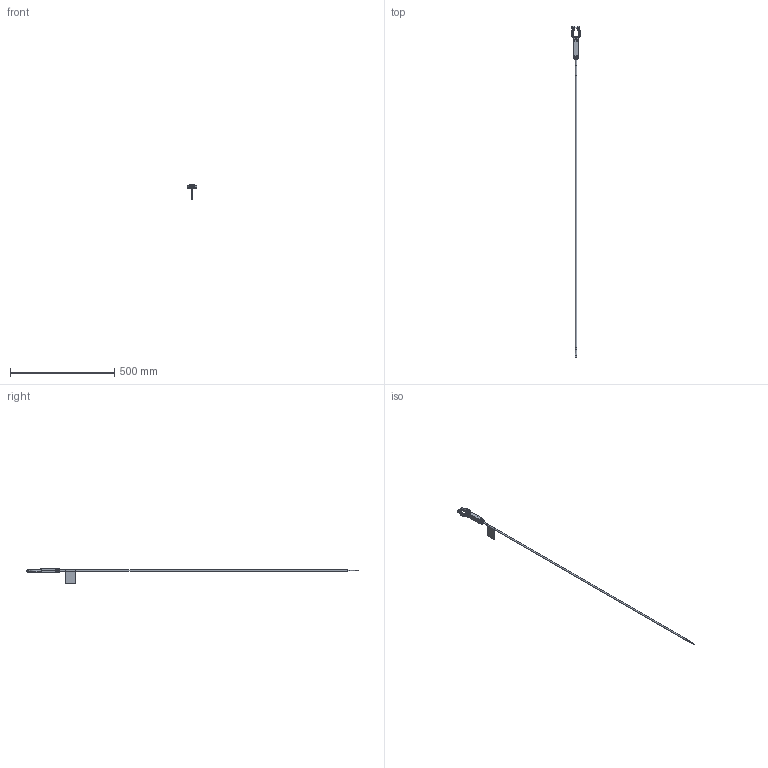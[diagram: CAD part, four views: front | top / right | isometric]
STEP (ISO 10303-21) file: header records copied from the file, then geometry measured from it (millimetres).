
FILE_DESCRIPTION(/* description */ (''),/* implementation_level */ '2;1');
FILE_NAME(/* name */ '7479900030_D.stp',/* time_stamp */ '2018-07-12T13:24:29+02:00',/* author */ (''),/* organization */ (''),/* preprocessor_version */ 'ST-DEVELOPER v16',/* originating_system */ 'SIEMENS PLM Software NX 10.0',/* authorisation */ '');
FILE_SCHEMA (('AUTOMOTIVE_DESIGN { 1 0 10303 214 3 1 1 1 }'));
Length unit declared in the file: millimetre
Products named in the file (8): 7415400190_C; 7450400020_A; 7442102780_C; 8000067247_A; 7432900890_A; 7410301170_G; 7479900030_D_SOLID; 7479900030_D
Assembly tree (7 placements, depth 3):
  7479900030_D
    7479900030_D_SOLID
      7410301170_G
      7432900890_A
      8000067247_A
      7442102780_C
      7450400020_A
      7415400190_C
Bounding box: 47.87 x 1593 x 74.45 mm (x, y, z)
Volume: 107314.4 mm3; surface area: 61641.4 mm2
Topology: 6 solids, 6 shells, 581 faces, 1325 edges, 762 vertices
Faces by surface type: cylinder 235, plane 175, bspline 141, torus 16, sphere 12, cone 2
Full cylindrical faces by diameter (mm): 1.2 x2, 4 x1, 5 x2, 5.104 x1, 6 x1, 6.9 x2, 7.5 x1, 10 x1, 14 x1, 16 x1, 17 x1, 20 x1
Entity records: 21797 total; most frequent: CARTESIAN_POINT 9189, DIRECTION 2674, ORIENTED_EDGE 2528, EDGE_CURVE 1264, AXIS2_PLACEMENT_3D 1034, VERTEX_POINT 743, EDGE_LOOP 637, LINE 606
